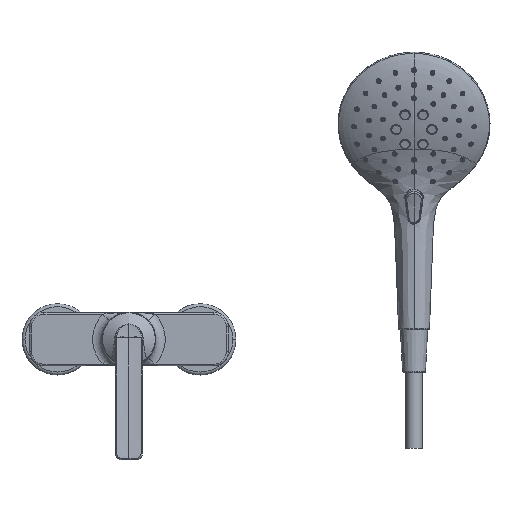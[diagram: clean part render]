
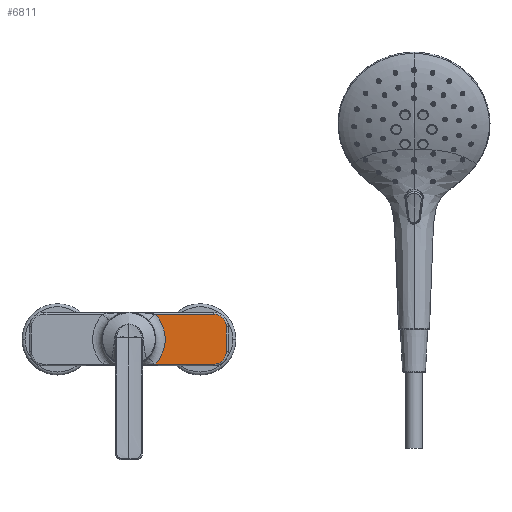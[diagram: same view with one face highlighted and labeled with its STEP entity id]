
A CAD part, top view. The second image highlights one B-rep face of the part: STEP entity #6811.
In plain terms, the highlighted planar face has unit normal (0, 0, 1).
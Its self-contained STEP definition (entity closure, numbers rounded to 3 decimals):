
#818=CARTESIAN_POINT('',(22.119,-21.,14.));
#834=CARTESIAN_POINT('',(0.,0.,14.));
#835=DIRECTION('',(0.,0.,-1.));
#836=DIRECTION('',(0.725,0.689,0.));
#837=AXIS2_PLACEMENT_3D('',#834,#835,#836);
#839=DIRECTION('',(1.,0.,0.));
#840=VECTOR('',#839,49.381);
#841=CARTESIAN_POINT('',(22.119,21.,14.));
#842=LINE('',#841,#840);
#843=CARTESIAN_POINT('',(71.5,10.5,14.));
#844=DIRECTION('',(0.,0.,-1.));
#845=DIRECTION('',(0.,1.,0.));
#846=AXIS2_PLACEMENT_3D('',#843,#844,#845);
#848=DIRECTION('',(0.,-1.,0.));
#849=VECTOR('',#848,21.);
#850=CARTESIAN_POINT('',(82.,10.5,14.));
#851=LINE('',#850,#849);
#852=CARTESIAN_POINT('',(71.5,-10.5,14.));
#853=DIRECTION('',(0.,0.,-1.));
#854=DIRECTION('',(1.,0.,0.));
#855=AXIS2_PLACEMENT_3D('',#852,#853,#854);
#857=DIRECTION('',(-1.,0.,0.));
#858=VECTOR('',#857,49.381);
#859=CARTESIAN_POINT('',(71.5,-21.,14.));
#860=LINE('',#859,#858);
#5357=CARTESIAN_POINT('',(82.,-10.5,14.));
#5358=CARTESIAN_POINT('',(71.5,-21.,14.));
#5359=VERTEX_POINT('',#5357);
#5360=VERTEX_POINT('',#5358);
#5363=CARTESIAN_POINT('',(82.,10.5,14.));
#5364=VERTEX_POINT('',#5363);
#5367=CARTESIAN_POINT('',(71.5,21.,14.));
#5368=VERTEX_POINT('',#5367);
#5384=VERTEX_POINT('',#818);
#5387=CARTESIAN_POINT('',(22.119,21.,14.));
#5388=VERTEX_POINT('',#5387);
#6795=CARTESIAN_POINT('',(-83.5,-22.5,14.));
#6796=DIRECTION('',(0.,0.,1.));
#6797=DIRECTION('',(1.,0.,0.));
#6798=AXIS2_PLACEMENT_3D('',#6795,#6796,#6797);
#6799=PLANE('',#6798);
#6800=ORIENTED_EDGE('',*,*,#6404,.F.);
#6801=ORIENTED_EDGE('',*,*,#6523,.T.);
#6803=ORIENTED_EDGE('',*,*,#6802,.T.);
#6805=ORIENTED_EDGE('',*,*,#6804,.T.);
#6807=ORIENTED_EDGE('',*,*,#6806,.T.);
#6808=ORIENTED_EDGE('',*,*,#6787,.T.);
#6809=EDGE_LOOP('',(#6800,#6801,#6803,#6805,#6807,#6808));
#6810=FACE_OUTER_BOUND('',#6809,.F.);
#6811=ADVANCED_FACE('',(#6810),#6799,.T.);
#838=CIRCLE('',#837,30.5);
#847=CIRCLE('',#846,10.5);
#856=CIRCLE('',#855,10.5);
#6404=EDGE_CURVE('',#5388,#5384,#838,.T.);
#6523=EDGE_CURVE('',#5388,#5368,#842,.T.);
#6787=EDGE_CURVE('',#5360,#5384,#860,.T.);
#6802=EDGE_CURVE('',#5368,#5364,#847,.T.);
#6804=EDGE_CURVE('',#5364,#5359,#851,.T.);
#6806=EDGE_CURVE('',#5359,#5360,#856,.T.);
